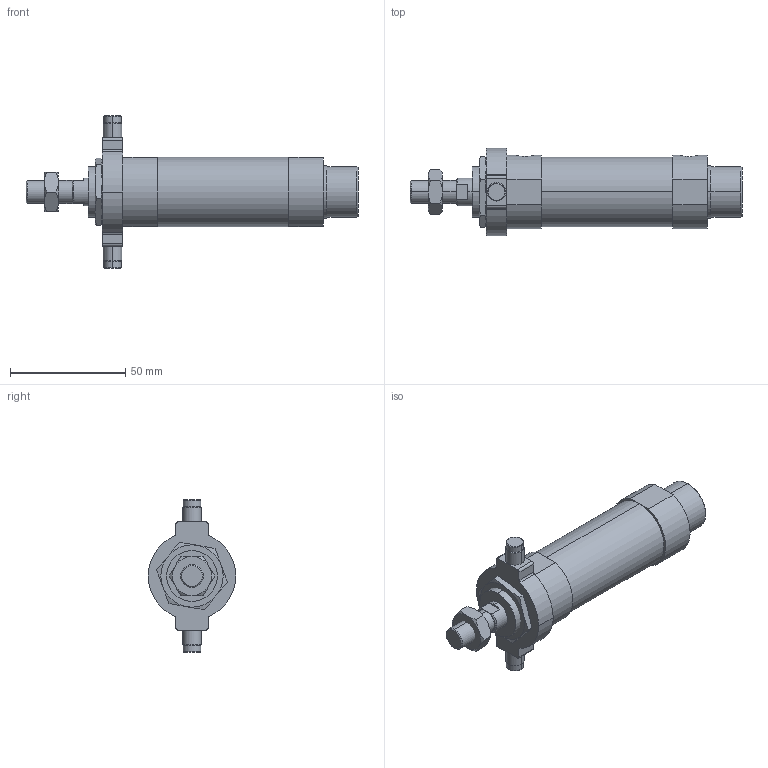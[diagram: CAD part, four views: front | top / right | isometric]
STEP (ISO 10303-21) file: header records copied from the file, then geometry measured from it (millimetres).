
FILE_DESCRIPTION (( 'STEP AP203' ), '1' );
FILE_NAME ('J#2-25-25-T.STEP', '2016-03-08T07:10:20', ( '' ), ( '' ), 'SwSTEP 2.0', 'SolidWorks 2014', '' );
FILE_SCHEMA (( 'CONFIG_CONTROL_DESIGN' ));
Length unit declared in the file: millimetre
Products named in the file (5): J#2-25-T; J#2-25-25; J#2-25-25-T
Assembly tree (4 placements, depth 2):
  J#2-25-25-T
    J#2-25-25
    (unnamed)
    J#2-25-T
    (unnamed)
Bounding box: 144 x 38 x 66 mm (x, y, z)
Volume: 85726.7 mm3; surface area: 20305.7 mm2
Topology: 4 solids, 4 shells, 136 faces, 307 edges, 184 vertices
Faces by surface type: cylinder 47, plane 47, torus 24, cone 18
Entity records: 4590 total; most frequent: CARTESIAN_POINT 1054, DIRECTION 661, ORIENTED_EDGE 606, EDGE_CURVE 303, AXIS2_PLACEMENT_3D 271, VERTEX_POINT 184, EDGE_LOOP 151, ADVANCED_FACE 136
